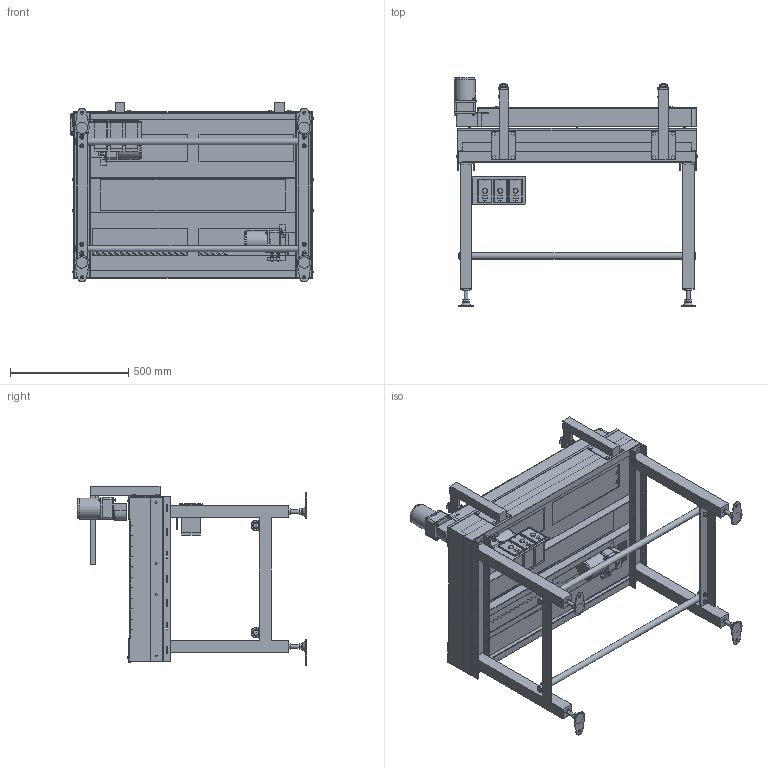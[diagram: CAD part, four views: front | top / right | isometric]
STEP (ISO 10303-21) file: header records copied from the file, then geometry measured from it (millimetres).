
FILE_DESCRIPTION (( 'STEP AP214' ), '1' );
FILE_NAME ('SGA-500-L-A.STEP', '2022-04-12T01:23:50', ( '' ), ( '' ), 'SwSTEP 2.0', 'SolidWorks 2017', '' );
FILE_SCHEMA (( 'AUTOMOTIVE_DESIGN' ));
Length unit declared in the file: millimetre
Products named in the file (18): SWD-SGA-S-ｺﾝﾄﾛｰﾗﾌﾞﾗｹｯﾄ(勝手違い); SWD-SGA-S-原動ｶﾊﾞｰ(勝手違い); SWD-UBM540-403-E2+5GN3-18K_t4; SWD-U-010 Assy_固定板t6; SWD-SGA-S-ｻｲﾄﾞﾍﾞﾔ(勝手違い)_500幅; SWD-SGA-衛動葀杺_990; SGA-500-L-A; VFD001L21A_WEB図; SWD-SGA-S-ﾃｰｸｱｯﾌﾟ(勝手違い); SWD-SGA-S-徊霓娃詭x帩; SWD-SGA-S-脚_500幅; SWD-SGA-S-ﾍﾞｰｽﾌﾚｰﾑ(勝手違い)_500幅; SWD-SGA-S-ﾛｰﾗ部(勝手違い)_500幅; SWD-AJ-020(75mm); SK-34-WH; SWD-UBM540-403-E2+5GN3-18K; SWD-SGA-S-狠嫩白(彑庤堘偄); SWD-SGA-S-原動部(勝手違い)
Assembly tree (30 placements, depth 3):
  SGA-500-L-A
    SWD-SGA-S-ﾍﾞｰｽﾌﾚｰﾑ(勝手違い)_500幅
    SWD-SGA-S-ﾛｰﾗ部(勝手違い)_500幅
    SWD-SGA-S-脚_500幅  x2
    SWD-AJ-020(75mm)  x4
    SWD-U-010 Assy_固定板t6  x4
    SWD-SGA-衛動葀杺_990  x2
    SWD-SGA-S-原動部(勝手違い)  x2
      SWD-UBM540-403-E2+5GN3-18K_t4
      SWD-SGA-S-原動ｶﾊﾞｰ(勝手違い)
      SWD-SGA-S-ﾃｰｸｱｯﾌﾟ(勝手違い)
    SWD-SGA-S-狠嫩白(彑庤堘偄)
      SWD-SGA-S-ｺﾝﾄﾛｰﾗﾌﾞﾗｹｯﾄ(勝手違い)
      VFD001L21A_WEB図  x3
    SWD-SGA-S-徊霓娃詭x帩  x2
    SK-34-WH  x2
    SWD-SGA-S-ｻｲﾄﾞﾍﾞﾔ(勝手違い)_500幅
    SWD-UBM540-403-E2+5GN3-18K
Bounding box: 1030.8 x 969.4 x 760 mm (x, y, z)
Volume: 29145089.2 mm3; surface area: 6721705.5 mm2
Topology: 84 solids, 85 shells, 2788 faces, 6891 edges, 4443 vertices
Faces by surface type: plane 1916, cylinder 580, cone 167, bspline 64, torus 38, sphere 23
Full cylindrical faces by diameter (mm): 2 x3, 4.5 x6, 5 x14, 5.5 x3, 6 x34, 6.5 x24, 6.6 x12, 7 x8, 8 x18, 8.49 x3, 9 x8, 10 x12, 10.5 x1, 11.5 x2, 12 x3, 12.2 x2, 12.5 x12, 13 x4, 16 x10, 17 x8, 20 x2, 22 x1, 27.2 x2, 28 x4, 36 x3, 40 x4, 50 x2, 83 x3, 84 x3, 86.3 x3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
Entity records: 60526 total; most frequent: CARTESIAN_POINT 10969, ORIENTED_EDGE 8560, DIRECTION 8476, EDGE_CURVE 4280, LINE 3238, VECTOR 3238, VERTEX_POINT 2880, AXIS2_PLACEMENT_3D 2619
